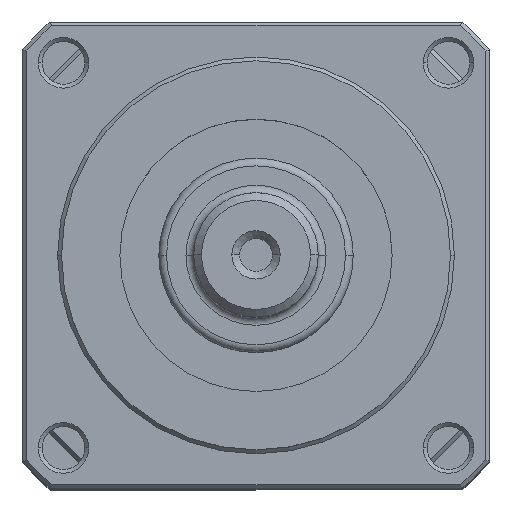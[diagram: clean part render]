
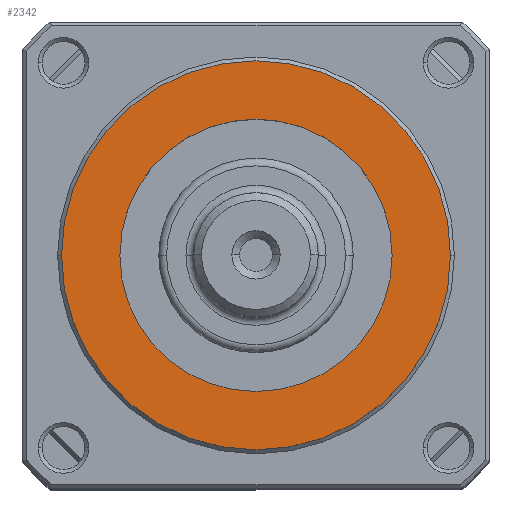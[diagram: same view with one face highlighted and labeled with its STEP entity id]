
A CAD part, top view. The second image highlights one B-rep face of the part: STEP entity #2342.
In plain terms, the highlighted planar face has unit normal (0, 0, 1).
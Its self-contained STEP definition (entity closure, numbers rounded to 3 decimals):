
#5 = DIRECTION ( 'NONE',  ( 1., 0., 0. ) ) ;
#82 = DIRECTION ( 'NONE',  ( 0., 0., 1. ) ) ;
#99 = CARTESIAN_POINT ( 'NONE',  ( 0., 0., 13. ) ) ;
#108 = CIRCLE ( 'NONE', #234, 17.5 ) ;
#234 = AXIS2_PLACEMENT_3D ( 'NONE', #4894, #4879, #4862 ) ;
#523 = DIRECTION ( 'NONE',  ( 0., 0., 1. ) ) ;
#541 = AXIS2_PLACEMENT_3D ( 'NONE', #3387, #2977, #2220 ) ;
#617 = EDGE_CURVE ( 'NONE', #2519, #3571, #3623, .T. ) ;
#729 = CARTESIAN_POINT ( 'NONE',  ( 17.5, 0., 13. ) ) ;
#1044 = EDGE_LOOP ( 'NONE', ( #5102, #3171 ) ) ;
#1297 = DIRECTION ( 'NONE',  ( 0., 0., 1. ) ) ;
#1303 = AXIS2_PLACEMENT_3D ( 'NONE', #2560, #1297, #1785 ) ;
#1380 = AXIS2_PLACEMENT_3D ( 'NONE', #3873, #523, #4212 ) ;
#1612 = VERTEX_POINT ( 'NONE', #729 ) ;
#1620 = CARTESIAN_POINT ( 'NONE',  ( -25., 0., 13. ) ) ;
#1638 = EDGE_LOOP ( 'NONE', ( #3325, #5256 ) ) ;
#1785 = DIRECTION ( 'NONE',  ( 1., 0., 0. ) ) ;
#2188 = EDGE_CURVE ( 'NONE', #3571, #2519, #3828, .T. ) ;
#2220 = DIRECTION ( 'NONE',  ( 1., 0., 0. ) ) ;
#2264 = EDGE_CURVE ( 'NONE', #1612, #2275, #4444, .T. ) ;
#2275 = VERTEX_POINT ( 'NONE', #2607 ) ;
#2342 = ADVANCED_FACE ( 'NONE', ( #2692, #3762 ), #4165, .T. ) ;
#2519 = VERTEX_POINT ( 'NONE', #5081 ) ;
#2560 = CARTESIAN_POINT ( 'NONE',  ( 0., 0., 13. ) ) ;
#2607 = CARTESIAN_POINT ( 'NONE',  ( -17.5, 0., 13. ) ) ;
#2692 = FACE_BOUND ( 'NONE', #1638, .T. ) ;
#2977 = DIRECTION ( 'NONE',  ( 0., 0., 1. ) ) ;
#3171 = ORIENTED_EDGE ( 'NONE', *, *, #617, .T. ) ;
#3325 = ORIENTED_EDGE ( 'NONE', *, *, #2264, .F. ) ;
#3387 = CARTESIAN_POINT ( 'NONE',  ( 0., 0., 13. ) ) ;
#3571 = VERTEX_POINT ( 'NONE', #1620 ) ;
#3611 = EDGE_CURVE ( 'NONE', #2275, #1612, #108, .T. ) ;
#3623 = CIRCLE ( 'NONE', #3674, 25. ) ;
#3674 = AXIS2_PLACEMENT_3D ( 'NONE', #99, #82, #5 ) ;
#3762 = FACE_OUTER_BOUND ( 'NONE', #1044, .T. ) ;
#3828 = CIRCLE ( 'NONE', #1303, 25. ) ;
#3873 = CARTESIAN_POINT ( 'NONE',  ( 0., 0., 13. ) ) ;
#4165 = PLANE ( 'NONE',  #541 ) ;
#4212 = DIRECTION ( 'NONE',  ( 1., 0., 0. ) ) ;
#4444 = CIRCLE ( 'NONE', #1380, 17.5 ) ;
#4862 = DIRECTION ( 'NONE',  ( 1., 0., 0. ) ) ;
#4879 = DIRECTION ( 'NONE',  ( 0., 0., 1. ) ) ;
#4894 = CARTESIAN_POINT ( 'NONE',  ( 0., 0., 13. ) ) ;
#5081 = CARTESIAN_POINT ( 'NONE',  ( 25., 0., 13. ) ) ;
#5102 = ORIENTED_EDGE ( 'NONE', *, *, #2188, .T. ) ;
#5256 = ORIENTED_EDGE ( 'NONE', *, *, #3611, .F. ) ;
